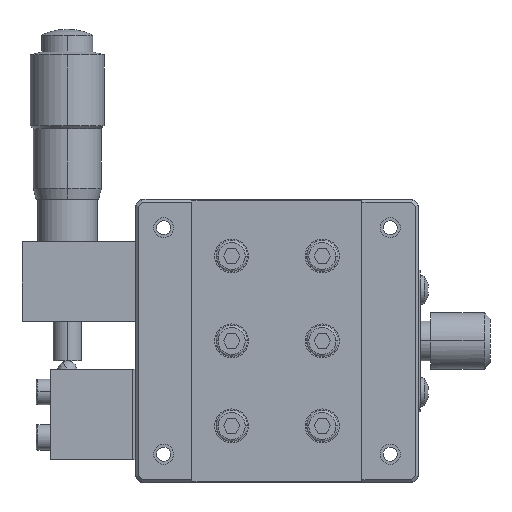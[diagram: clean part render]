
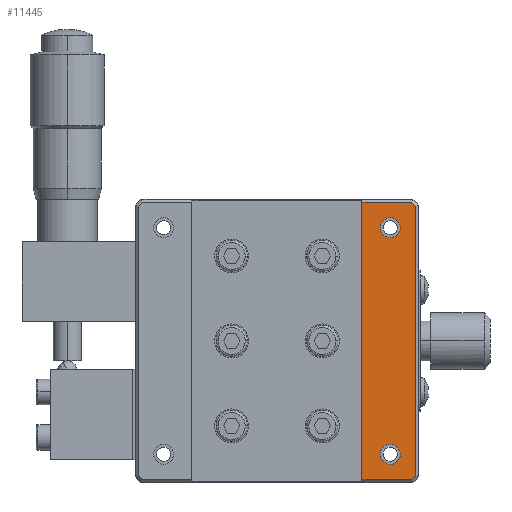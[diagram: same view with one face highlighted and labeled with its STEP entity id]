
A CAD part, front view. The second image highlights one B-rep face of the part: STEP entity #11445.
In plain terms, the highlighted planar face has unit normal (0, -1, 0).
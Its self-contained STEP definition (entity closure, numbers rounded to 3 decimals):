
#1148 = CIRCLE ( 'NONE', #1150, 1.75 ) ;
#1149 = CIRCLE ( 'NONE', #1156, 1.75 ) ;
#1150 = AXIS2_PLACEMENT_3D ( 'NONE', #5110, #5111, #5112 ) ;
#1156 = AXIS2_PLACEMENT_3D ( 'NONE', #5122, #5123, #5124 ) ;
#1237 = VECTOR ( 'NONE', #5284, 1000. ) ;
#1243 = VECTOR ( 'NONE', #5302, 1000. ) ;
#1245 = VECTOR ( 'NONE', #5307, 1000. ) ;
#1250 = VECTOR ( 'NONE', #5348, 1000. ) ;
#1263 = VECTOR ( 'NONE', #5346, 1000. ) ;
#1266 = VECTOR ( 'NONE', #5351, 1000. ) ;
#1267 = CIRCLE ( 'NONE', #1269, 1.75 ) ;
#1268 = CIRCLE ( 'NONE', #1271, 1.75 ) ;
#1269 = AXIS2_PLACEMENT_3D ( 'NONE', #5354, #5355, #5356 ) ;
#1271 = AXIS2_PLACEMENT_3D ( 'NONE', #5358, #5359, #5360 ) ;
#3040 = CARTESIAN_POINT ( 'NONE',  ( 45., -30., 25.48 ) ) ;
#3050 = CARTESIAN_POINT ( 'NONE',  ( 45., -30., 28.98 ) ) ;
#3051 = CARTESIAN_POINT ( 'NONE',  ( 45., -30., 65.48 ) ) ;
#3054 = CARTESIAN_POINT ( 'NONE',  ( 45., -30., 68.98 ) ) ;
#5110 = CARTESIAN_POINT ( 'NONE',  ( 45., -30., 67.23 ) ) ;
#5111 = DIRECTION ( 'NONE',  ( 0., -1., 0. ) ) ;
#5112 = DIRECTION ( 'NONE',  ( 0., 0., 1. ) ) ;
#5122 = CARTESIAN_POINT ( 'NONE',  ( 45., -30., 27.23 ) ) ;
#5123 = DIRECTION ( 'NONE',  ( 0., -1., 0. ) ) ;
#5124 = DIRECTION ( 'NONE',  ( 0., 0., 1. ) ) ;
#5282 = LINE ( 'NONE', #5283, #1237 ) ;
#5283 = CARTESIAN_POINT ( 'NONE',  ( 50., -30., 22.73 ) ) ;
#5284 = DIRECTION ( 'NONE',  ( -1., 0., 0. ) ) ;
#5300 = LINE ( 'NONE', #5301, #1243 ) ;
#5301 = CARTESIAN_POINT ( 'NONE',  ( 40., -30., 16.23 ) ) ;
#5302 = DIRECTION ( 'NONE',  ( 0., 0., -1. ) ) ;
#5305 = LINE ( 'NONE', #5306, #1245 ) ;
#5306 = CARTESIAN_POINT ( 'NONE',  ( 50., -30., 71.73 ) ) ;
#5307 = DIRECTION ( 'NONE',  ( -1., 0., 0. ) ) ;
#5337 = LINE ( 'NONE', #5338, #1263 ) ;
#5338 = CARTESIAN_POINT ( 'NONE',  ( 49.5, -30., 23.437 ) ) ;
#5342 = LINE ( 'NONE', #5347, #1250 ) ;
#5346 = DIRECTION ( 'NONE',  ( -0.707, 0., -0.707 ) ) ;
#5347 = CARTESIAN_POINT ( 'NONE',  ( 49.5, -30., 22.23 ) ) ;
#5348 = DIRECTION ( 'NONE',  ( 0., 0., -1. ) ) ;
#5349 = LINE ( 'NONE', #5350, #1266 ) ;
#5350 = CARTESIAN_POINT ( 'NONE',  ( 48.793, -30., 71.73 ) ) ;
#5351 = DIRECTION ( 'NONE',  ( 0.707, 0., -0.707 ) ) ;
#5354 = CARTESIAN_POINT ( 'NONE',  ( 45., -30., 27.23 ) ) ;
#5355 = DIRECTION ( 'NONE',  ( 0., -1., 0. ) ) ;
#5356 = DIRECTION ( 'NONE',  ( 0., 0., 1. ) ) ;
#5358 = CARTESIAN_POINT ( 'NONE',  ( 45., -30., 67.23 ) ) ;
#5359 = DIRECTION ( 'NONE',  ( 0., -1., 0. ) ) ;
#5360 = DIRECTION ( 'NONE',  ( 0., 0., 1. ) ) ;
#6076 = CARTESIAN_POINT ( 'NONE',  ( 49.5, -30., 71.023 ) ) ;
#6080 = CARTESIAN_POINT ( 'NONE',  ( 49.5, -30., 23.437 ) ) ;
#6087 = CARTESIAN_POINT ( 'NONE',  ( 40., -30., 22.73 ) ) ;
#6090 = CARTESIAN_POINT ( 'NONE',  ( 48.793, -30., 71.73 ) ) ;
#6093 = CARTESIAN_POINT ( 'NONE',  ( 48.793, -30., 22.73 ) ) ;
#6098 = CARTESIAN_POINT ( 'NONE',  ( 40., -30., 71.73 ) ) ;
#9349 = VERTEX_POINT ( 'NONE', #3040 ) ;
#9353 = VERTEX_POINT ( 'NONE', #3050 ) ;
#9355 = VERTEX_POINT ( 'NONE', #3051 ) ;
#9358 = VERTEX_POINT ( 'NONE', #3054 ) ;
#10121 = EDGE_LOOP ( 'NONE', ( #19231, #19230 ) ) ;
#10127 = EDGE_LOOP ( 'NONE', ( #19237, #19236, #19235, #19234, #19233, #19232 ) ) ;
#10135 = EDGE_LOOP ( 'NONE', ( #19229, #19228 ) ) ;
#11445 = ADVANCED_FACE ( 'NONE', ( #14560, #14553, #14562 ), #14563, .F. ) ;
#14553 = FACE_BOUND ( 'NONE', #10121, .T. ) ;
#14556 = DIRECTION ( 'NONE',  ( 0., 1., 0. ) ) ;
#14559 = CARTESIAN_POINT ( 'NONE',  ( 50., -30., 22.23 ) ) ;
#14560 = FACE_OUTER_BOUND ( 'NONE', #10127, .T. ) ;
#14562 = FACE_BOUND ( 'NONE', #10135, .T. ) ;
#14563 = PLANE ( 'NONE',  #21424 ) ;
#14565 = DIRECTION ( 'NONE',  ( 0., 0., 1. ) ) ;
#19228 = ORIENTED_EDGE ( 'NONE', *, *, #21028, .F. ) ;
#19229 = ORIENTED_EDGE ( 'NONE', *, *, #20945, .F. ) ;
#19230 = ORIENTED_EDGE ( 'NONE', *, *, #21027, .F. ) ;
#19231 = ORIENTED_EDGE ( 'NONE', *, *, #20949, .F. ) ;
#19232 = ORIENTED_EDGE ( 'NONE', *, *, #21011, .T. ) ;
#19233 = ORIENTED_EDGE ( 'NONE', *, *, #21026, .F. ) ;
#19234 = ORIENTED_EDGE ( 'NONE', *, *, #21025, .F. ) ;
#19235 = ORIENTED_EDGE ( 'NONE', *, *, #21024, .F. ) ;
#19236 = ORIENTED_EDGE ( 'NONE', *, *, #21003, .F. ) ;
#19237 = ORIENTED_EDGE ( 'NONE', *, *, #21009, .T. ) ;
#20945 = EDGE_CURVE ( 'NONE', #9358, #9355, #1148, .T. ) ;
#20949 = EDGE_CURVE ( 'NONE', #9353, #9349, #1149, .T. ) ;
#21003 = EDGE_CURVE ( 'NONE', #22022, #22015, #5282, .T. ) ;
#21009 = EDGE_CURVE ( 'NONE', #22027, #22015, #5300, .T. ) ;
#21011 = EDGE_CURVE ( 'NONE', #22018, #22027, #5305, .T. ) ;
#21024 = EDGE_CURVE ( 'NONE', #22007, #22022, #5337, .T. ) ;
#21025 = EDGE_CURVE ( 'NONE', #22003, #22007, #5342, .T. ) ;
#21026 = EDGE_CURVE ( 'NONE', #22018, #22003, #5349, .T. ) ;
#21027 = EDGE_CURVE ( 'NONE', #9349, #9353, #1267, .T. ) ;
#21028 = EDGE_CURVE ( 'NONE', #9355, #9358, #1268, .T. ) ;
#21424 = AXIS2_PLACEMENT_3D ( 'NONE', #14559, #14556, #14565 ) ;
#22003 = VERTEX_POINT ( 'NONE', #6076 ) ;
#22007 = VERTEX_POINT ( 'NONE', #6080 ) ;
#22015 = VERTEX_POINT ( 'NONE', #6087 ) ;
#22018 = VERTEX_POINT ( 'NONE', #6090 ) ;
#22022 = VERTEX_POINT ( 'NONE', #6093 ) ;
#22027 = VERTEX_POINT ( 'NONE', #6098 ) ;
